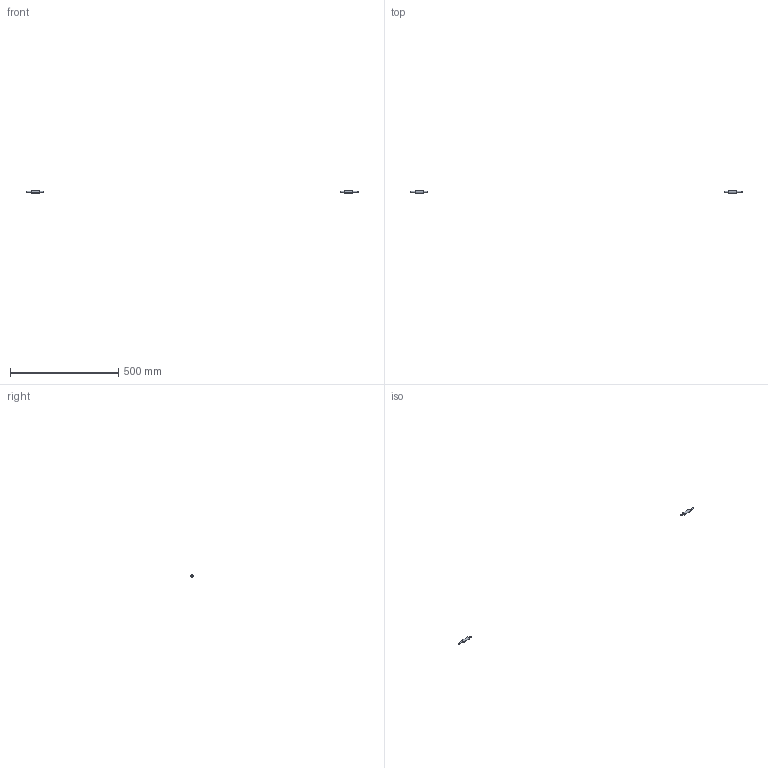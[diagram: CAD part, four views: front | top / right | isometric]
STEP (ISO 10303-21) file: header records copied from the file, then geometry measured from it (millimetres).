
FILE_DESCRIPTION(/* description */ (''),/* implementation_level */ '2;1');
FILE_NAME(/* name */ 'Y-8EE6~1',/* time_stamp */ '2014-02-14T19:43:06+01:00',/* author */ (''),/* organization */ (''),/* preprocessor_version */ 'ST-DEVELOPER v14',/* originating_system */ '',/* authorisation */ '');
FILE_SCHEMA (('AUTOMOTIVE_DESIGN'));
Length unit declared in the file: millimetre
Products named in the file (1): Document
Bounding box: 1532 x 12 x 12 mm (x, y, z)
Volume: 11309.2 mm3; surface area: 4900.8 mm2
Topology: 2 solids, 2 shells, 44 faces, 92 edges, 56 vertices
Faces by surface type: bspline 36, plane 8
Entity records: 3183 total; most frequent: CARTESIAN_POINT 1994, B_SPLINE_CURVE_WITH_KNOTS 188, ORIENTED_EDGE 184, PCURVE 184, DEFINITIONAL_REPRESENTATION 184, SURFACE_CURVE 92, EDGE_CURVE 92, VERTEX_POINT 56
